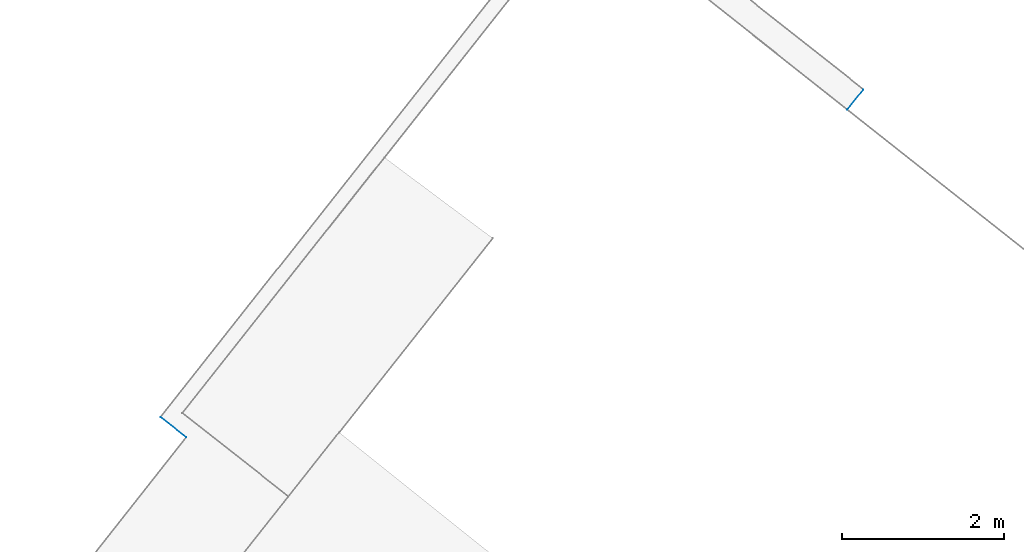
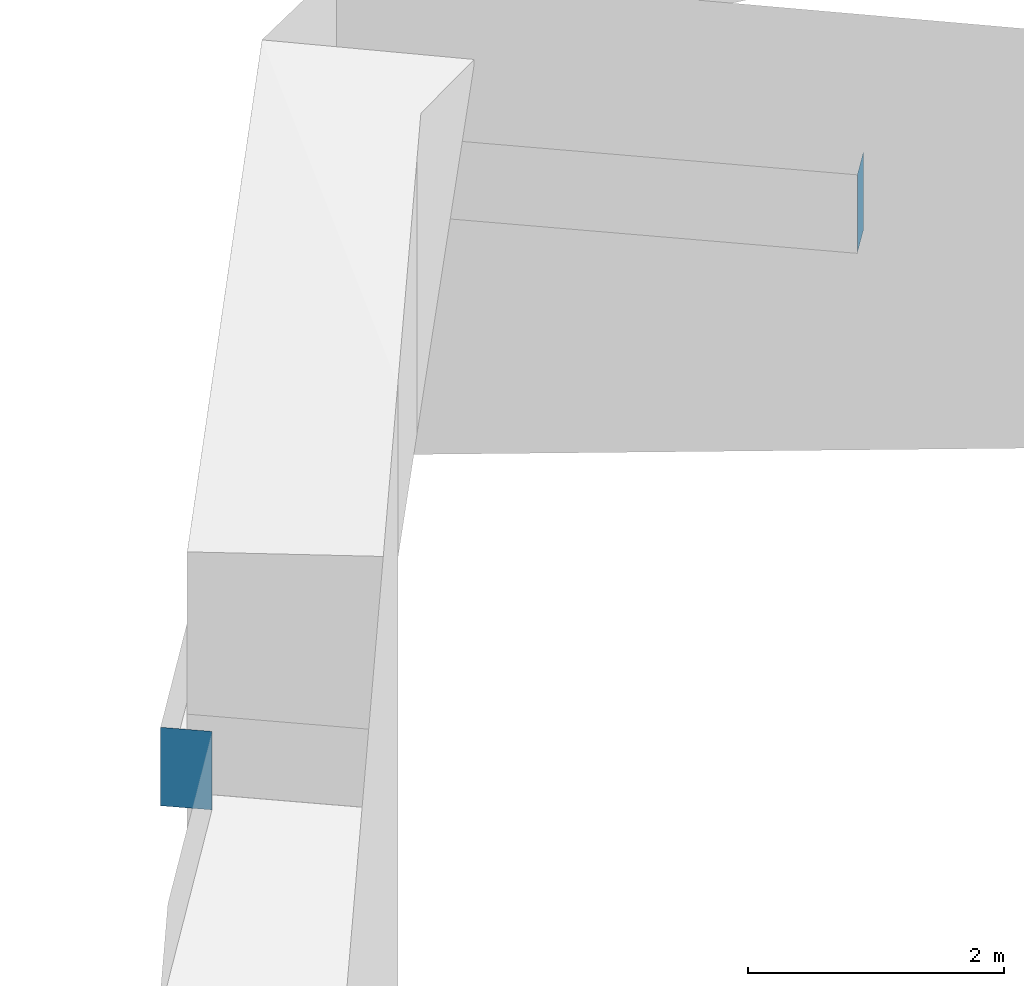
# Not in any storey, part 44 of 59: 4 walls.
"""IFC4 building model written with IfcOpenShell, lengths in metres."""

from ifc_helpers import new_model, entity, si_unit, converted_unit, origin, place, context, subcontext, project, spatial, face_set, surface_model, element, save


model = new_model("IFC4")

# Units and contexts
model_context = context("Model", 3, precision=1e-05, world=origin())
body_context = subcontext(model_context, "Body", "Model", "MODEL_VIEW")
ifc_project = project(units=[converted_unit("PLANEANGLEUNIT", "DEGREE", entity("IfcRatioMeasure", 0.0174532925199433), si_unit("PLANEANGLEUNIT", "RADIAN"), dimensions=[0, 0, 0, 0, 0, 0, 0]), si_unit("AREAUNIT", "SQUARE_METRE"), si_unit("LENGTHUNIT", "METRE")], contexts=[model_context])

# Site, building
site_placement = place(None, origin())
site = spatial("IfcSite", under=ifc_project, at=site_placement, Name="_site")
building_placement = place(site_placement, origin())
building = spatial("IfcBuilding", under=site, at=building_placement, Name="_building")

# Walls
wall_1_placement = place(building_placement, origin())
element("IfcWall", 1, at=wall_1_placement, inside=building, Name="Wall", PredefinedType="NOTDEFINED", context=body_context, shape_type="SurfaceModel", body=[
    surface_model("IfcFaceBasedSurfaceModel", [(58.13, 71.891, 213.14), (57.93, 71.641, 213.14), (57.93, 71.641, 213.89), (58.13, 71.891, 213.89)], [face_set([[[0, 1, 2, 3]]])]),
])
wall_2_placement = place(building_placement, origin())
element("IfcWall", 2, at=wall_2_placement, inside=building, Name="Wall", PredefinedType="NOTDEFINED", context=body_context, shape_type="SurfaceModel", body=[
    surface_model("IfcFaceBasedSurfaceModel", [(49.76, 67.59, 213.14), (49.44, 67.84, 213.14), (49.44, 67.84, 213.89), (49.76, 67.59, 213.89)], [face_set([[[0, 1, 2, 3]]])]),
])
wall_3_placement = place(building_placement, origin())
element("IfcWall", 3, at=wall_3_placement, inside=building, Name="Wall", PredefinedType="NOTDEFINED", context=body_context, shape_type="SurfaceModel", body=[
    surface_model("IfcFaceBasedSurfaceModel", [(58.13, 71.891, 213.14), (57.93, 71.641, 213.14), (57.93, 71.641, 213.89), (58.13, 71.891, 213.89)], [face_set([[[0, 1, 2, 3]]])]),
])
wall_4_placement = place(building_placement, origin())
element("IfcWall", 4, at=wall_4_placement, inside=building, Name="Wall", PredefinedType="NOTDEFINED", context=body_context, shape_type="SurfaceModel", body=[
    surface_model("IfcFaceBasedSurfaceModel", [(49.76, 67.59, 213.14), (49.44, 67.84, 213.14), (49.44, 67.84, 213.89), (49.76, 67.59, 213.89)], [face_set([[[0, 1, 2, 3]]])]),
])

save(model, "model.ifc")
